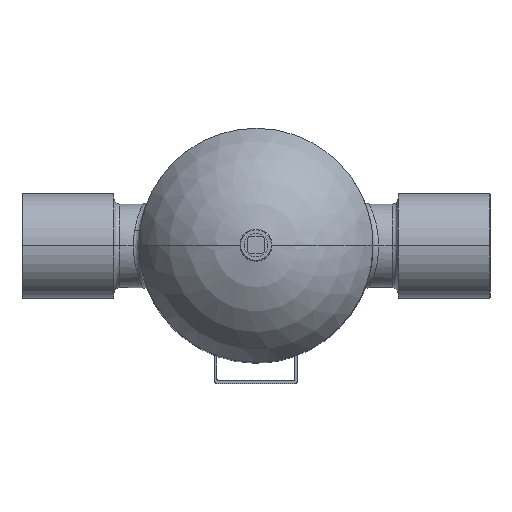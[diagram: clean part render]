
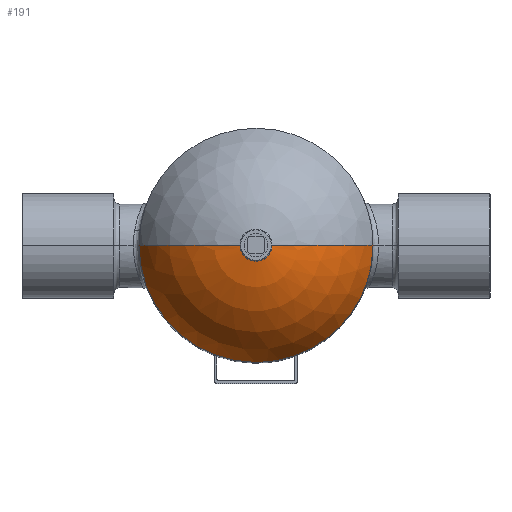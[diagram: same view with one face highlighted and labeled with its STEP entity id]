
A CAD part, top view. The second image highlights one B-rep face of the part: STEP entity #191.
In plain terms, the highlighted spherical face has radius 90.994 mm.
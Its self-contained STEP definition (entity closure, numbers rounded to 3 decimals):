
#191=ADVANCED_FACE('',(#1065),#1064,.T.);
#1064=SPHERICAL_SURFACE('',#2490,90.994);
#1065=FACE_OUTER_BOUND('',#2491,.T.);
#2487=CARTESIAN_POINT('',(0.,0.,214.006));
#2488=DIRECTION('',(0.,0.,-1.));
#2489=DIRECTION('',(1.,0.,0.));
#2490=AXIS2_PLACEMENT_3D('',#2487,#2488,#2489);
#2491=EDGE_LOOP('',(#3769,#3770,#3771,#3772,#3773));
#3769=ORIENTED_EDGE('',*,*,#4282,.T.);
#3770=ORIENTED_EDGE('',*,*,#4285,.T.);
#3771=ORIENTED_EDGE('',*,*,#4287,.F.);
#3772=ORIENTED_EDGE('',*,*,#4288,.F.);
#3773=ORIENTED_EDGE('',*,*,#4286,.F.);
#4282=EDGE_CURVE('',#5959,#5966,#5979,.T.);
#4285=EDGE_CURVE('',#5966,#5993,#6000,.T.);
#4286=EDGE_CURVE('',#5959,#5986,#6006,.T.);
#4287=EDGE_CURVE('',#6012,#5993,#6013,.T.);
#4288=EDGE_CURVE('',#5986,#6012,#6019,.T.);
#5959=VERTEX_POINT('',#8087);
#5966=VERTEX_POINT('',#8090);
#5979=CIRCLE('',#8100,11.5);
#5986=VERTEX_POINT('',#8102);
#5993=VERTEX_POINT('',#8106);
#6000=(BOUNDED_CURVE() B_SPLINE_CURVE(2,(#8111,#8112,#8113),.UNSPECIFIED.,.F.,.F.) B_SPLINE_CURVE_WITH_KNOTS((3,3),(0.,1.),.UNSPECIFIED.) CURVE() GEOMETRIC_REPRESENTATION_ITEM() RATIONAL_B_SPLINE_CURVE((1.,0.865,1.)) REPRESENTATION_ITEM('') );
#6006=(BOUNDED_CURVE() B_SPLINE_CURVE(2,(#8114,#8115,#8116),.UNSPECIFIED.,.F.,.F.) B_SPLINE_CURVE_WITH_KNOTS((3,3),(0.,1.),.UNSPECIFIED.) CURVE() GEOMETRIC_REPRESENTATION_ITEM() RATIONAL_B_SPLINE_CURVE((0.75,0.649,0.75)) REPRESENTATION_ITEM('') );
#6012=VERTEX_POINT('',#8117);
#6013=CIRCLE('',#8121,84.008);
#6019=(BOUNDED_CURVE() B_SPLINE_CURVE(2,(#8122,#8123,#8124),.UNSPECIFIED.,.F.,.F.) B_SPLINE_CURVE_WITH_KNOTS((3,3),(0.,1.),.UNSPECIFIED.) CURVE() GEOMETRIC_REPRESENTATION_ITEM() RATIONAL_B_SPLINE_CURVE((1.,0.704,1.)) REPRESENTATION_ITEM('') );
#8087=CARTESIAN_POINT('',(11.5,0.,304.27));
#8090=CARTESIAN_POINT('',(-11.5,0.,304.27));
#8097=CARTESIAN_POINT('',(0.,0.,304.27));
#8098=DIRECTION('',(0.,0.,-1.));
#8099=DIRECTION('',(-1.,0.,0.));
#8100=AXIS2_PLACEMENT_3D('',#8097,#8098,#8099);
#8102=CARTESIAN_POINT('',(84.008,0.,248.97));
#8106=CARTESIAN_POINT('',(-84.008,0.,248.97));
#8111=CARTESIAN_POINT('',(-11.5,0.,304.27));
#8112=CARTESIAN_POINT('',(-63.764,0.,297.612));
#8113=CARTESIAN_POINT('',(-84.008,0.,248.97));
#8114=CARTESIAN_POINT('',(11.5,0.,304.27));
#8115=CARTESIAN_POINT('',(63.764,0.,297.612));
#8116=CARTESIAN_POINT('',(84.008,0.,248.97));
#8117=CARTESIAN_POINT('',(-0.733,-84.005,248.97));
#8118=CARTESIAN_POINT('',(0.,0.,248.97));
#8119=DIRECTION('',(0.,0.,-1.));
#8120=DIRECTION('',(-1.,0.,0.));
#8121=AXIS2_PLACEMENT_3D('',#8118,#8119,#8120);
#8122=CARTESIAN_POINT('',(84.008,0.,248.97));
#8123=CARTESIAN_POINT('',(84.,-84.745,248.97));
#8124=CARTESIAN_POINT('',(-0.733,-84.005,248.97));
